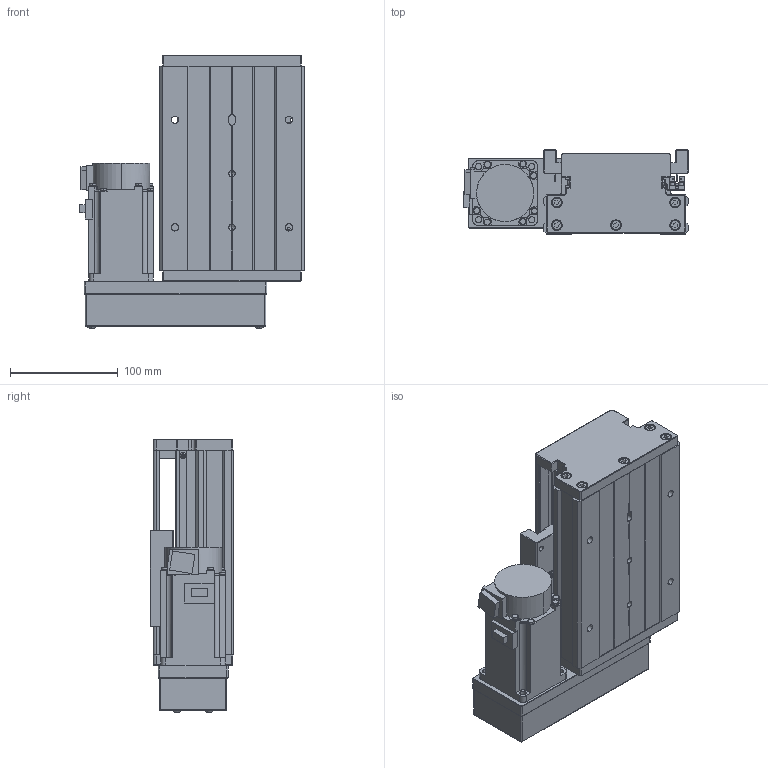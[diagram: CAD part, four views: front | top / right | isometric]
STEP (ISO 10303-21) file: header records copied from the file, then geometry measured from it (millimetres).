
FILE_DESCRIPTION (( 'STEP AP203' ), '1' );
FILE_NAME ('KTH130-50-BL-M40-C4.step', '2023-06-30T03:58:53', ( '微软用户' ), ( '微软中国' ), 'SwSTEP 2.0', 'SolidWorks 2020', '' );
FILE_SCHEMA (( 'CONFIG_CONTROL_DESIGN' ));
Length unit declared in the file: millimetre
Products named in the file (19): GBT 70.3-M3℅8; GTH14-001_50; CTHA60-017; HG-KN43J-S100; KTH130-002_KTH130-002; EE_SX911P_R; GBT 70.2-M4¡Á35_M4¡Á35; KTH130-004; CTHA60-016; GTH14-015-2_CTHA86-015-2; KTH130-005; GBT 70.1-M3℅5; GTH14-033; GB1155-6X6; GBT77-2000 M3×3; KTH130-50-BL-M40-C4; GBT70.1 M5℅16; す晦芛蹟隊 M3℅5; GBT 70.2-M3¡Á5_M3¡Á6
Assembly tree (53 placements, depth 2):
  KTH130-50-BL-M40-C4
    GTH14-001_50
    KTH130-002_KTH130-002
    KTH130-004
    KTH130-005
    GB1155-6X6  x2
    GBT70.1 M5℅16  x10
    GBT 70.2-M3¡Á5_M3¡Á6  x4
    CTHA60-017  x3
    EE_SX911P_R  x3
    CTHA60-016  x2
    GBT 70.1-M3℅5  x6
    GBT77-2000 M3×3  x6
    す晦芛蹟隊 M3℅5  x2
    GBT 70.3-M3℅8  x4
    HG-KN43J-S100
    GBT 70.2-M4¡Á35_M4¡Á35  x4
    GTH14-015-2_CTHA86-015-2
    GTH14-033
Bounding box: 209.3 x 78 x 254.2 mm (x, y, z)
Volume: 1828816.9 mm3; surface area: 368194.5 mm2
Topology: 56 solids, 56 shells, 2193 faces, 5294 edges, 3294 vertices
Faces by surface type: plane 1191, cylinder 588, cone 290, torus 100, sphere 24
Entity records: 39634 total; most frequent: CARTESIAN_POINT 8484, DIRECTION 5859, ORIENTED_EDGE 5788, EDGE_CURVE 2894, AXIS2_PLACEMENT_3D 2000, VECTOR 1859, LINE 1859, VERTEX_POINT 1847
